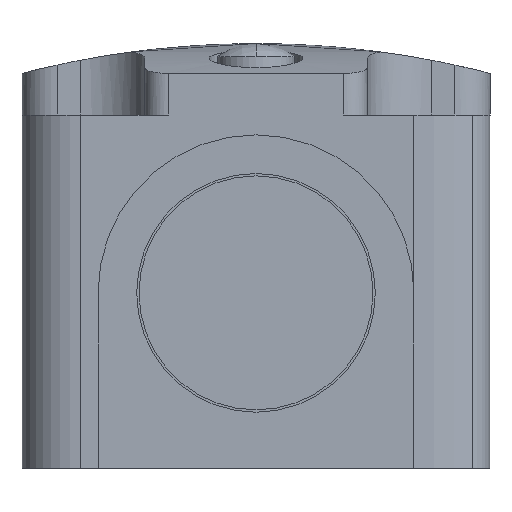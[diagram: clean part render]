
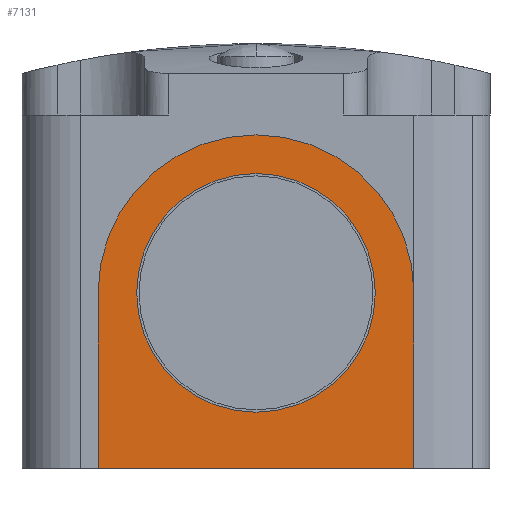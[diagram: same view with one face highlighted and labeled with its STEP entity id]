
A CAD part, front view. The second image highlights one B-rep face of the part: STEP entity #7131.
In plain terms, the highlighted planar face has unit normal (0, -1, 0).
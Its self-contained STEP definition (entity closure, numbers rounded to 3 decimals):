
#867 = DIRECTION ( 'NONE',  ( 0., -1., 0. ) ) ;
#1069 = EDGE_CURVE ( 'NONE', #12395, #2161, #10783, .T. ) ;
#1181 = EDGE_CURVE ( 'NONE', #9600, #8573, #2430, .T. ) ;
#1331 = CIRCLE ( 'NONE', #15405, 13.5 ) ;
#1624 = CARTESIAN_POINT ( 'NONE',  ( -13.5, -36.2, 15. ) ) ;
#1909 = CARTESIAN_POINT ( 'NONE',  ( 0., -36.2, -10.2 ) ) ;
#2043 = VECTOR ( 'NONE', #15586, 1000. ) ;
#2071 = DIRECTION ( 'NONE',  ( 0., 1., 0. ) ) ;
#2161 = VERTEX_POINT ( 'NONE', #5008 ) ;
#2191 = VERTEX_POINT ( 'NONE', #3653 ) ;
#2430 = CIRCLE ( 'NONE', #4790, 10.2 ) ;
#3653 = CARTESIAN_POINT ( 'NONE',  ( -13.5, -36.2, 0. ) ) ;
#3772 = ORIENTED_EDGE ( 'NONE', *, *, #13209, .F. ) ;
#4075 = VECTOR ( 'NONE', #14619, 1000. ) ;
#4121 = CARTESIAN_POINT ( 'NONE',  ( 0., -36.2, 0. ) ) ;
#4139 = CARTESIAN_POINT ( 'NONE',  ( 13.5, -36.2, -21.3 ) ) ;
#4790 = AXIS2_PLACEMENT_3D ( 'NONE', #4121, #14594, #5599 ) ;
#4936 = DIRECTION ( 'NONE',  ( 0., 0., 1. ) ) ;
#5008 = CARTESIAN_POINT ( 'NONE',  ( 0., -36.2, -13.5 ) ) ;
#5078 = CARTESIAN_POINT ( 'NONE',  ( -13.5, -36.2, -21.3 ) ) ;
#5599 = DIRECTION ( 'NONE',  ( 0., 0., -1. ) ) ;
#6303 = FACE_BOUND ( 'NONE', #15805, .T. ) ;
#6343 = DIRECTION ( 'NONE',  ( 0., -1., 0. ) ) ;
#6461 = ORIENTED_EDGE ( 'NONE', *, *, #1069, .F. ) ;
#6864 = EDGE_CURVE ( 'NONE', #2191, #18313, #8857, .T. ) ;
#7131 = ADVANCED_FACE ( 'NONE', ( #6303, #13384 ), #18728, .T. ) ;
#7234 = AXIS2_PLACEMENT_3D ( 'NONE', #15345, #6343, #16858 ) ;
#7737 = DIRECTION ( 'NONE',  ( 0., 1., 0. ) ) ;
#8013 = ORIENTED_EDGE ( 'NONE', *, *, #1181, .F. ) ;
#8227 = ORIENTED_EDGE ( 'NONE', *, *, #9588, .F. ) ;
#8573 = VERTEX_POINT ( 'NONE', #15821 ) ;
#8857 = LINE ( 'NONE', #13924, #13354 ) ;
#9588 = EDGE_CURVE ( 'NONE', #8573, #9600, #12373, .T. ) ;
#9600 = VERTEX_POINT ( 'NONE', #1909 ) ;
#10129 = ORIENTED_EDGE ( 'NONE', *, *, #17025, .F. ) ;
#10783 = CIRCLE ( 'NONE', #17256, 13.5 ) ;
#10958 = CARTESIAN_POINT ( 'NONE',  ( 0., -36.2, 0. ) ) ;
#11245 = DIRECTION ( 'NONE',  ( 0., 0., -1. ) ) ;
#11505 = VERTEX_POINT ( 'NONE', #11966 ) ;
#11532 = AXIS2_PLACEMENT_3D ( 'NONE', #5078, #867, #11245 ) ;
#11966 = CARTESIAN_POINT ( 'NONE',  ( 13.5, -36.2, 15. ) ) ;
#12373 = CIRCLE ( 'NONE', #7234, 10.2 ) ;
#12395 = VERTEX_POINT ( 'NONE', #13134 ) ;
#12497 = DIRECTION ( 'NONE',  ( 0., 0., -1. ) ) ;
#13134 = CARTESIAN_POINT ( 'NONE',  ( 13.5, -36.2, 0. ) ) ;
#13209 = EDGE_CURVE ( 'NONE', #18313, #11505, #14889, .T. ) ;
#13354 = VECTOR ( 'NONE', #4936, 1000. ) ;
#13384 = FACE_OUTER_BOUND ( 'NONE', #16646, .T. ) ;
#13924 = CARTESIAN_POINT ( 'NONE',  ( -13.5, -36.2, -21.3 ) ) ;
#14075 = CARTESIAN_POINT ( 'NONE',  ( -13.5, -36.2, 15. ) ) ;
#14594 = DIRECTION ( 'NONE',  ( 0., -1., 0. ) ) ;
#14619 = DIRECTION ( 'NONE',  ( 0., 0., 1. ) ) ;
#14889 = LINE ( 'NONE', #14075, #2043 ) ;
#15345 = CARTESIAN_POINT ( 'NONE',  ( 0., -36.2, 0. ) ) ;
#15405 = AXIS2_PLACEMENT_3D ( 'NONE', #16767, #7737, #18269 ) ;
#15586 = DIRECTION ( 'NONE',  ( 1., 0., 0. ) ) ;
#15738 = ORIENTED_EDGE ( 'NONE', *, *, #16766, .T. ) ;
#15805 = EDGE_LOOP ( 'NONE', ( #8013, #8227 ) ) ;
#15821 = CARTESIAN_POINT ( 'NONE',  ( 0., -36.2, 10.2 ) ) ;
#16033 = LINE ( 'NONE', #4139, #4075 ) ;
#16646 = EDGE_LOOP ( 'NONE', ( #6461, #15738, #3772, #16884, #10129 ) ) ;
#16766 = EDGE_CURVE ( 'NONE', #12395, #11505, #16033, .T. ) ;
#16767 = CARTESIAN_POINT ( 'NONE',  ( 0., -36.2, 0. ) ) ;
#16858 = DIRECTION ( 'NONE',  ( 0., 0., -1. ) ) ;
#16884 = ORIENTED_EDGE ( 'NONE', *, *, #6864, .F. ) ;
#17025 = EDGE_CURVE ( 'NONE', #2161, #2191, #1331, .T. ) ;
#17256 = AXIS2_PLACEMENT_3D ( 'NONE', #10958, #2071, #12497 ) ;
#18269 = DIRECTION ( 'NONE',  ( 0., 0., -1. ) ) ;
#18313 = VERTEX_POINT ( 'NONE', #1624 ) ;
#18728 = PLANE ( 'NONE',  #11532 ) ;
